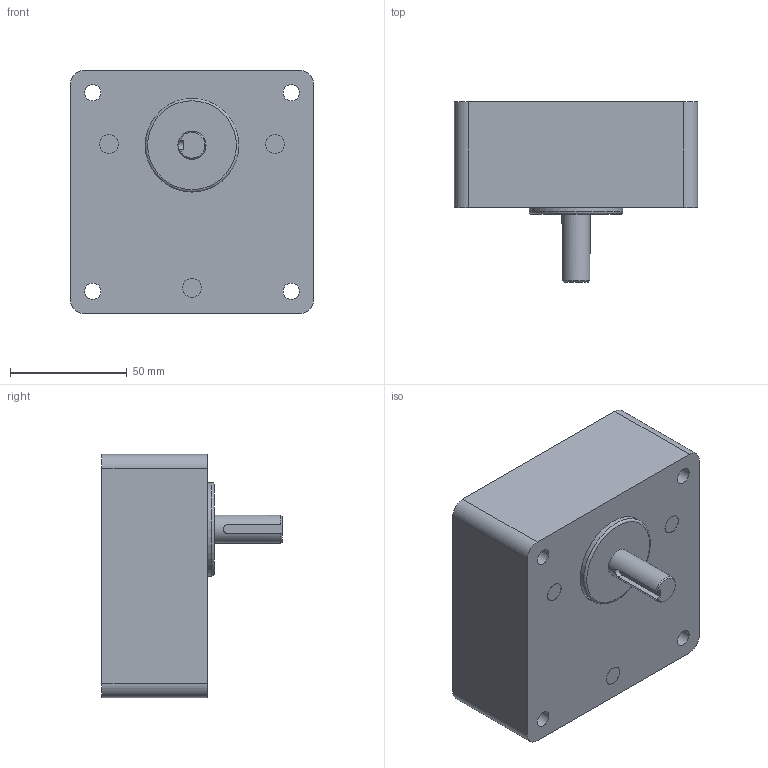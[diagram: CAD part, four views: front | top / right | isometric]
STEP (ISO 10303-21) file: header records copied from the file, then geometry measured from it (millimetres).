
FILE_DESCRIPTION((''),'2;1');
FILE_NAME('\\Servert1600\threepeace\2015homepage\STP\HP-Data_Gearhead_3D_STEP\GM-2.stp','2016-11-18T10:37:46',('Administrator'),(''),'Autodesk Inventor 2010','Autodesk Inventor 2010','');
FILE_SCHEMA(('AUTOMOTIVE_DESIGN { 1 0 10303 214 1 1 1 1 }'));
Length unit declared in the file: millimetre
Products named in the file (1): GM-2-ギアヘッド単品
Bounding box: 104 x 77 x 104 mm (x, y, z)
Volume: 464339.1 mm3; surface area: 45885.1 mm2
Topology: 1 solids, 1 shells, 32 faces, 72 edges, 48 vertices
Faces by surface type: plane 15, cylinder 11, bspline 4, cone 1, torus 1
Full cylindrical faces by diameter (mm): 8 x3, 12 x1, 40 x1, 94 x1
Entity records: 949 total; most frequent: CARTESIAN_POINT 230, DIRECTION 145, ORIENTED_EDGE 120, AXIS2_PLACEMENT_3D 60, EDGE_CURVE 60, EDGE_LOOP 57, VERTEX_POINT 47, FACE_OUTER_BOUND 32
